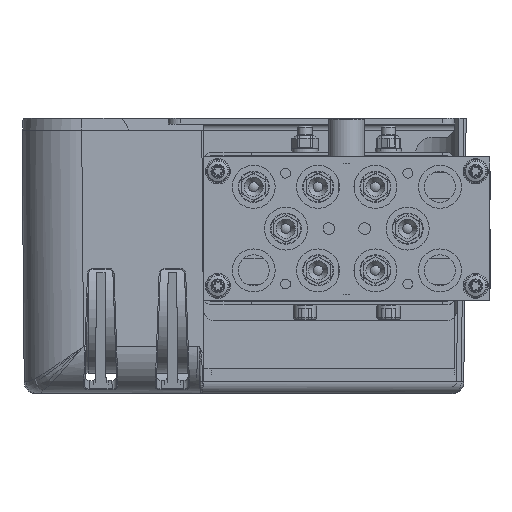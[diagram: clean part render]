
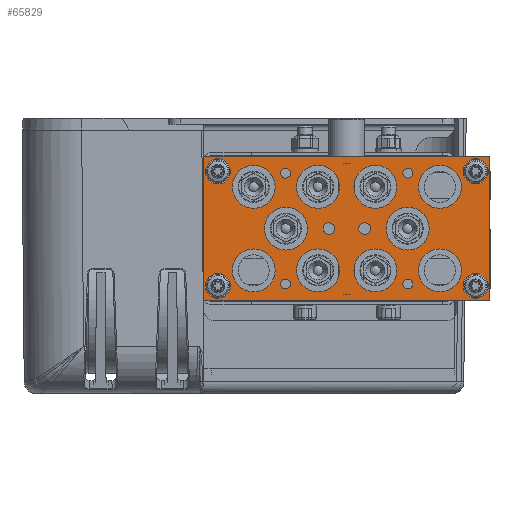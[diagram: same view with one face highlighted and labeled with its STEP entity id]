
A CAD part, left-side view. The second image highlights one B-rep face of the part: STEP entity #65829.
In plain terms, the highlighted planar face has unit normal (-1, 0, 0) as drawn and (0, 0, 1) by its records, which use the part's own axes.
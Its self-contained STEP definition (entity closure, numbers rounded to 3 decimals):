
#5933=LINE('',#113437,#8664);
#5937=LINE('',#113448,#8668);
#5941=LINE('',#113593,#8672);
#5942=LINE('',#113594,#8673);
#8664=VECTOR('',#76846,1000.);
#8668=VECTOR('',#76854,1000.);
#8672=VECTOR('',#77014,1000.);
#8673=VECTOR('',#77015,1000.);
#10796=PLANE('',#69781);
#16233=ORIENTED_EDGE('',*,*,#29909,.F.);
#16234=ORIENTED_EDGE('',*,*,#29910,.F.);
#16235=ORIENTED_EDGE('',*,*,#29911,.F.);
#16236=ORIENTED_EDGE('',*,*,#29912,.F.);
#16237=ORIENTED_EDGE('',*,*,#29913,.F.);
#16238=ORIENTED_EDGE('',*,*,#29914,.F.);
#16239=ORIENTED_EDGE('',*,*,#29915,.T.);
#16240=ORIENTED_EDGE('',*,*,#29916,.T.);
#16241=ORIENTED_EDGE('',*,*,#29917,.T.);
#16242=ORIENTED_EDGE('',*,*,#29918,.T.);
#16243=ORIENTED_EDGE('',*,*,#29919,.T.);
#16244=ORIENTED_EDGE('',*,*,#29920,.T.);
#16245=ORIENTED_EDGE('',*,*,#29921,.T.);
#16246=ORIENTED_EDGE('',*,*,#29851,.T.);
#16247=ORIENTED_EDGE('',*,*,#29922,.T.);
#16248=ORIENTED_EDGE('',*,*,#29856,.T.);
#16249=ORIENTED_EDGE('',*,*,#29923,.T.);
#16250=ORIENTED_EDGE('',*,*,#29924,.T.);
#16251=ORIENTED_EDGE('',*,*,#29925,.T.);
#16252=ORIENTED_EDGE('',*,*,#29926,.T.);
#16253=ORIENTED_EDGE('',*,*,#29927,.T.);
#16254=ORIENTED_EDGE('',*,*,#29928,.T.);
#16255=ORIENTED_EDGE('',*,*,#29929,.T.);
#16256=ORIENTED_EDGE('',*,*,#29930,.T.);
#29851=EDGE_CURVE('',#36974,#36973,#5933,.T.);
#29856=EDGE_CURVE('',#36979,#36978,#5937,.T.);
#29909=EDGE_CURVE('',#37029,#37029,#41493,.T.);
#29910=EDGE_CURVE('',#37030,#37030,#41494,.T.);
#29911=EDGE_CURVE('',#37031,#37031,#41495,.T.);
#29912=EDGE_CURVE('',#37032,#37032,#41496,.T.);
#29913=EDGE_CURVE('',#37033,#37033,#41497,.T.);
#29914=EDGE_CURVE('',#37034,#37034,#41498,.T.);
#29915=EDGE_CURVE('',#37035,#37035,#41499,.T.);
#29916=EDGE_CURVE('',#37036,#37036,#41500,.T.);
#29917=EDGE_CURVE('',#37037,#37037,#41501,.T.);
#29918=EDGE_CURVE('',#37038,#37038,#41502,.T.);
#29919=EDGE_CURVE('',#37039,#37039,#41503,.T.);
#29920=EDGE_CURVE('',#37040,#37040,#41504,.T.);
#29921=EDGE_CURVE('',#37041,#37041,#41505,.T.);
#29922=EDGE_CURVE('',#36973,#36979,#5941,.T.);
#29923=EDGE_CURVE('',#36978,#36974,#5942,.T.);
#29924=EDGE_CURVE('',#37042,#37042,#41506,.T.);
#29925=EDGE_CURVE('',#37043,#37043,#41507,.T.);
#29926=EDGE_CURVE('',#37044,#37044,#41508,.T.);
#29927=EDGE_CURVE('',#37045,#37045,#41509,.T.);
#29928=EDGE_CURVE('',#37046,#37046,#41510,.T.);
#29929=EDGE_CURVE('',#37047,#37047,#41511,.T.);
#29930=EDGE_CURVE('',#37048,#37048,#41512,.T.);
#36973=VERTEX_POINT('',#113436);
#36974=VERTEX_POINT('',#113438);
#36978=VERTEX_POINT('',#113447);
#36979=VERTEX_POINT('',#113449);
#37029=VERTEX_POINT('',#113568);
#37030=VERTEX_POINT('',#113570);
#37031=VERTEX_POINT('',#113572);
#37032=VERTEX_POINT('',#113574);
#37033=VERTEX_POINT('',#113576);
#37034=VERTEX_POINT('',#113578);
#37035=VERTEX_POINT('',#113580);
#37036=VERTEX_POINT('',#113582);
#37037=VERTEX_POINT('',#113584);
#37038=VERTEX_POINT('',#113586);
#37039=VERTEX_POINT('',#113588);
#37040=VERTEX_POINT('',#113590);
#37041=VERTEX_POINT('',#113592);
#37042=VERTEX_POINT('',#113596);
#37043=VERTEX_POINT('',#113598);
#37044=VERTEX_POINT('',#113600);
#37045=VERTEX_POINT('',#113602);
#37046=VERTEX_POINT('',#113604);
#37047=VERTEX_POINT('',#113606);
#37048=VERTEX_POINT('',#113608);
#41493=CIRCLE('',#69782,2.067);
#41494=CIRCLE('',#69783,2.067);
#41495=CIRCLE('',#69784,2.067);
#41496=CIRCLE('',#69785,2.067);
#41497=CIRCLE('',#69786,2.459);
#41498=CIRCLE('',#69787,2.459);
#41499=CIRCLE('',#69788,9.);
#41500=CIRCLE('',#69789,9.);
#41501=CIRCLE('',#69790,9.);
#41502=CIRCLE('',#69791,9.);
#41503=CIRCLE('',#69792,9.);
#41504=CIRCLE('',#69793,5.25);
#41505=CIRCLE('',#69794,5.25);
#41506=CIRCLE('',#69795,5.25);
#41507=CIRCLE('',#69796,9.);
#41508=CIRCLE('',#69797,9.);
#41509=CIRCLE('',#69798,9.);
#41510=CIRCLE('',#69799,9.);
#41511=CIRCLE('',#69800,9.);
#41512=CIRCLE('',#69801,5.25);
#44034=EDGE_LOOP('',(#16233));
#44035=EDGE_LOOP('',(#16234));
#44036=EDGE_LOOP('',(#16235));
#44037=EDGE_LOOP('',(#16236));
#44038=EDGE_LOOP('',(#16237));
#44039=EDGE_LOOP('',(#16238));
#44040=EDGE_LOOP('',(#16239));
#44041=EDGE_LOOP('',(#16240));
#44042=EDGE_LOOP('',(#16241));
#44043=EDGE_LOOP('',(#16242));
#44044=EDGE_LOOP('',(#16243));
#44045=EDGE_LOOP('',(#16244));
#44046=EDGE_LOOP('',(#16245));
#44047=EDGE_LOOP('',(#16246,#16247,#16248,#16249));
#44048=EDGE_LOOP('',(#16250));
#44049=EDGE_LOOP('',(#16251));
#44050=EDGE_LOOP('',(#16252));
#44051=EDGE_LOOP('',(#16253));
#44052=EDGE_LOOP('',(#16254));
#44053=EDGE_LOOP('',(#16255));
#44054=EDGE_LOOP('',(#16256));
#48052=FACE_BOUND('',#44034,.T.);
#48053=FACE_BOUND('',#44035,.T.);
#48054=FACE_BOUND('',#44036,.T.);
#48055=FACE_BOUND('',#44037,.T.);
#48056=FACE_BOUND('',#44038,.T.);
#48057=FACE_BOUND('',#44039,.T.);
#48058=FACE_BOUND('',#44040,.T.);
#48059=FACE_BOUND('',#44041,.T.);
#48060=FACE_BOUND('',#44042,.T.);
#48061=FACE_BOUND('',#44043,.T.);
#48062=FACE_BOUND('',#44044,.T.);
#48063=FACE_BOUND('',#44045,.T.);
#48064=FACE_BOUND('',#44046,.T.);
#48065=FACE_BOUND('',#44047,.T.);
#48066=FACE_BOUND('',#44048,.T.);
#48067=FACE_BOUND('',#44049,.T.);
#48068=FACE_BOUND('',#44050,.T.);
#48069=FACE_BOUND('',#44051,.T.);
#48070=FACE_BOUND('',#44052,.T.);
#48071=FACE_BOUND('',#44053,.T.);
#48072=FACE_BOUND('',#44054,.T.);
#65829=ADVANCED_FACE('',(#48052,#48053,#48054,#48055,#48056,#48057,#48058,
#48059,#48060,#48061,#48062,#48063,#48064,#48065,#48066,#48067,#48068,#48069,
#48070,#48071,#48072),#10796,.T.);
#69781=AXIS2_PLACEMENT_3D('',#113566,#76986,#76987);
#69782=AXIS2_PLACEMENT_3D('',#113567,#76988,#76989);
#69783=AXIS2_PLACEMENT_3D('',#113569,#76990,#76991);
#69784=AXIS2_PLACEMENT_3D('',#113571,#76992,#76993);
#69785=AXIS2_PLACEMENT_3D('',#113573,#76994,#76995);
#69786=AXIS2_PLACEMENT_3D('',#113575,#76996,#76997);
#69787=AXIS2_PLACEMENT_3D('',#113577,#76998,#76999);
#69788=AXIS2_PLACEMENT_3D('',#113579,#77000,#77001);
#69789=AXIS2_PLACEMENT_3D('',#113581,#77002,#77003);
#69790=AXIS2_PLACEMENT_3D('',#113583,#77004,#77005);
#69791=AXIS2_PLACEMENT_3D('',#113585,#77006,#77007);
#69792=AXIS2_PLACEMENT_3D('',#113587,#77008,#77009);
#69793=AXIS2_PLACEMENT_3D('',#113589,#77010,#77011);
#69794=AXIS2_PLACEMENT_3D('',#113591,#77012,#77013);
#69795=AXIS2_PLACEMENT_3D('',#113595,#77016,#77017);
#69796=AXIS2_PLACEMENT_3D('',#113597,#77018,#77019);
#69797=AXIS2_PLACEMENT_3D('',#113599,#77020,#77021);
#69798=AXIS2_PLACEMENT_3D('',#113601,#77022,#77023);
#69799=AXIS2_PLACEMENT_3D('',#113603,#77024,#77025);
#69800=AXIS2_PLACEMENT_3D('',#113605,#77026,#77027);
#69801=AXIS2_PLACEMENT_3D('',#113607,#77028,#77029);
#76846=DIRECTION('',(-1.,0.,0.));
#76854=DIRECTION('',(1.,0.,0.));
#76986=DIRECTION('',(0.,0.,1.));
#76987=DIRECTION('',(1.,0.,0.));
#76988=DIRECTION('',(0.,0.,1.));
#76989=DIRECTION('',(1.,0.,0.));
#76990=DIRECTION('',(0.,0.,1.));
#76991=DIRECTION('',(1.,0.,0.));
#76992=DIRECTION('',(0.,0.,1.));
#76993=DIRECTION('',(1.,0.,0.));
#76994=DIRECTION('',(0.,0.,1.));
#76995=DIRECTION('',(1.,0.,0.));
#76996=DIRECTION('',(0.,0.,1.));
#76997=DIRECTION('',(1.,0.,0.));
#76998=DIRECTION('',(0.,0.,1.));
#76999=DIRECTION('',(1.,0.,0.));
#77000=DIRECTION('',(0.,0.,-1.));
#77001=DIRECTION('',(1.,0.,0.));
#77002=DIRECTION('',(0.,0.,-1.));
#77003=DIRECTION('',(1.,0.,0.));
#77004=DIRECTION('',(0.,0.,-1.));
#77005=DIRECTION('',(1.,0.,0.));
#77006=DIRECTION('',(0.,0.,-1.));
#77007=DIRECTION('',(1.,0.,0.));
#77008=DIRECTION('',(0.,0.,-1.));
#77009=DIRECTION('',(1.,0.,0.));
#77010=DIRECTION('',(0.,0.,-1.));
#77011=DIRECTION('',(1.,0.,0.));
#77012=DIRECTION('',(0.,0.,-1.));
#77013=DIRECTION('',(1.,0.,0.));
#77014=DIRECTION('',(0.,-1.,0.));
#77015=DIRECTION('',(0.,1.,0.));
#77016=DIRECTION('',(0.,0.,-1.));
#77017=DIRECTION('',(1.,0.,0.));
#77018=DIRECTION('',(0.,0.,-1.));
#77019=DIRECTION('',(1.,0.,0.));
#77020=DIRECTION('',(0.,0.,-1.));
#77021=DIRECTION('',(1.,0.,0.));
#77022=DIRECTION('',(0.,0.,-1.));
#77023=DIRECTION('',(1.,0.,0.));
#77024=DIRECTION('',(0.,0.,-1.));
#77025=DIRECTION('',(1.,0.,0.));
#77026=DIRECTION('',(0.,0.,-1.));
#77027=DIRECTION('',(1.,0.,0.));
#77028=DIRECTION('',(0.,0.,-1.));
#77029=DIRECTION('',(1.,0.,0.));
#113436=CARTESIAN_POINT('',(-60.,30.,15.));
#113437=CARTESIAN_POINT('',(60.,30.,15.));
#113438=CARTESIAN_POINT('',(60.,30.,15.));
#113447=CARTESIAN_POINT('',(60.,-30.,15.));
#113448=CARTESIAN_POINT('',(-60.,-30.,15.));
#113449=CARTESIAN_POINT('',(-60.,-30.,15.));
#113566=CARTESIAN_POINT('',(-60.,30.,15.));
#113567=CARTESIAN_POINT('',(25.6,23.2,15.));
#113568=CARTESIAN_POINT('',(27.667,23.2,15.));
#113569=CARTESIAN_POINT('',(-25.6,23.2,15.));
#113570=CARTESIAN_POINT('',(-23.533,23.2,15.));
#113571=CARTESIAN_POINT('',(-25.6,-23.2,15.));
#113572=CARTESIAN_POINT('',(-23.533,-23.2,15.));
#113573=CARTESIAN_POINT('',(25.6,-23.2,15.));
#113574=CARTESIAN_POINT('',(27.667,-23.2,15.));
#113575=CARTESIAN_POINT('',(7.5,0.,15.));
#113576=CARTESIAN_POINT('',(9.959,0.,15.));
#113577=CARTESIAN_POINT('',(-7.5,0.,15.));
#113578=CARTESIAN_POINT('',(-5.041,0.,15.));
#113579=CARTESIAN_POINT('',(25.5,0.,15.));
#113580=CARTESIAN_POINT('',(34.5,0.,15.));
#113581=CARTESIAN_POINT('',(39.,17.5,15.));
#113582=CARTESIAN_POINT('',(48.,17.5,15.));
#113583=CARTESIAN_POINT('',(-39.,-17.5,15.));
#113584=CARTESIAN_POINT('',(-30.,-17.5,15.));
#113585=CARTESIAN_POINT('',(-12.,-17.5,15.));
#113586=CARTESIAN_POINT('',(-3.,-17.5,15.));
#113587=CARTESIAN_POINT('',(12.,17.5,15.));
#113588=CARTESIAN_POINT('',(21.,17.5,15.));
#113589=CARTESIAN_POINT('',(-54.,-24.,15.));
#113590=CARTESIAN_POINT('',(-48.75,-24.,15.));
#113591=CARTESIAN_POINT('',(54.,24.,15.));
#113592=CARTESIAN_POINT('',(59.25,24.,15.));
#113593=CARTESIAN_POINT('',(-60.,30.,15.));
#113594=CARTESIAN_POINT('',(60.,-30.,15.));
#113595=CARTESIAN_POINT('',(54.,-24.,15.));
#113596=CARTESIAN_POINT('',(59.25,-24.,15.));
#113597=CARTESIAN_POINT('',(-12.,17.5,15.));
#113598=CARTESIAN_POINT('',(-3.,17.5,15.));
#113599=CARTESIAN_POINT('',(12.,-17.5,15.));
#113600=CARTESIAN_POINT('',(21.,-17.5,15.));
#113601=CARTESIAN_POINT('',(-39.,17.5,15.));
#113602=CARTESIAN_POINT('',(-30.,17.5,15.));
#113603=CARTESIAN_POINT('',(39.,-17.5,15.));
#113604=CARTESIAN_POINT('',(48.,-17.5,15.));
#113605=CARTESIAN_POINT('',(-25.5,0.,15.));
#113606=CARTESIAN_POINT('',(-16.5,0.,15.));
#113607=CARTESIAN_POINT('',(-54.,24.,15.));
#113608=CARTESIAN_POINT('',(-48.75,24.,15.));
